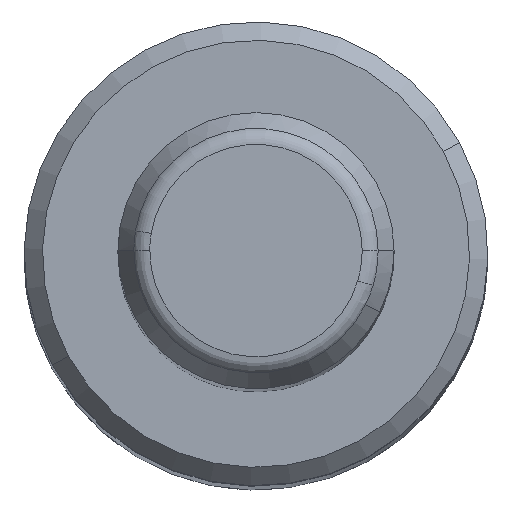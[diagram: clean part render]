
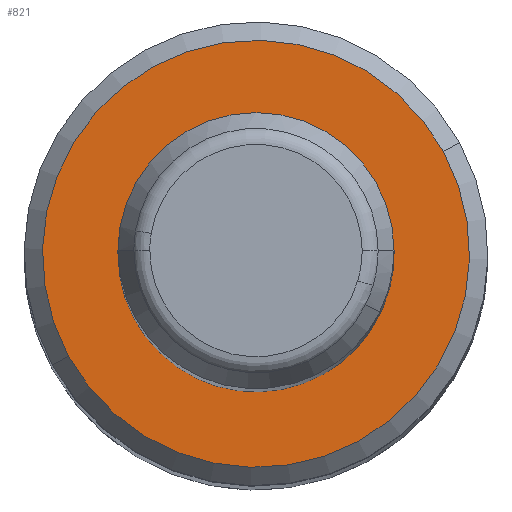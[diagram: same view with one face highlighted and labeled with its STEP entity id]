
A CAD part, top view. The second image highlights one B-rep face of the part: STEP entity #821.
In plain terms, the highlighted planar face has unit normal (0, 0, 1).
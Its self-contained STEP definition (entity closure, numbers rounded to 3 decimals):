
#769=CARTESIAN_POINT('Axis2P3D Location',(0.,0.,134.)) ;
#773=CARTESIAN_POINT('Vertex',(10.18,5.561,134.)) ;
#775=CARTESIAN_POINT('Vertex',(-10.18,-5.561,134.)) ;
#800=CARTESIAN_POINT('Axis2P3D Location',(0.,0.,134.)) ;
#812=CARTESIAN_POINT('Axis2P3D Location',(11.6,0.,134.)) ;
#770=DIRECTION('Axis2P3D Direction',(0.,0.,-1.)) ;
#801=DIRECTION('Axis2P3D Direction',(0.,0.,-1.)) ;
#813=DIRECTION('Axis2P3D Direction',(0.,0.,1.)) ;
#814=DIRECTION('Axis2P3D XDirection',(1.,0.,0.)) ;
#771=AXIS2_PLACEMENT_3D('Circle Axis2P3D',#769,#770,$) ;
#802=AXIS2_PLACEMENT_3D('Circle Axis2P3D',#800,#801,$) ;
#815=AXIS2_PLACEMENT_3D('Plane Axis2P3D',#812,#813,#814) ;
#818=ORIENTED_EDGE('',*,*,#777,.T.) ;
#819=ORIENTED_EDGE('',*,*,#804,.T.) ;
#821=ADVANCED_FACE('',(#820),#816,.T.) ;
#772=CIRCLE('generated circle',#771,11.6) ;
#803=CIRCLE('generated circle',#802,11.6) ;
#777=EDGE_CURVE('',#774,#776,#772,.F.) ;
#804=EDGE_CURVE('',#776,#774,#803,.F.) ;
#817=EDGE_LOOP('',(#818,#819)) ;
#820=FACE_OUTER_BOUND('',#817,.T.) ;
#816=PLANE('Plane',#815) ;
#774=VERTEX_POINT('',#773) ;
#776=VERTEX_POINT('',#775) ;
